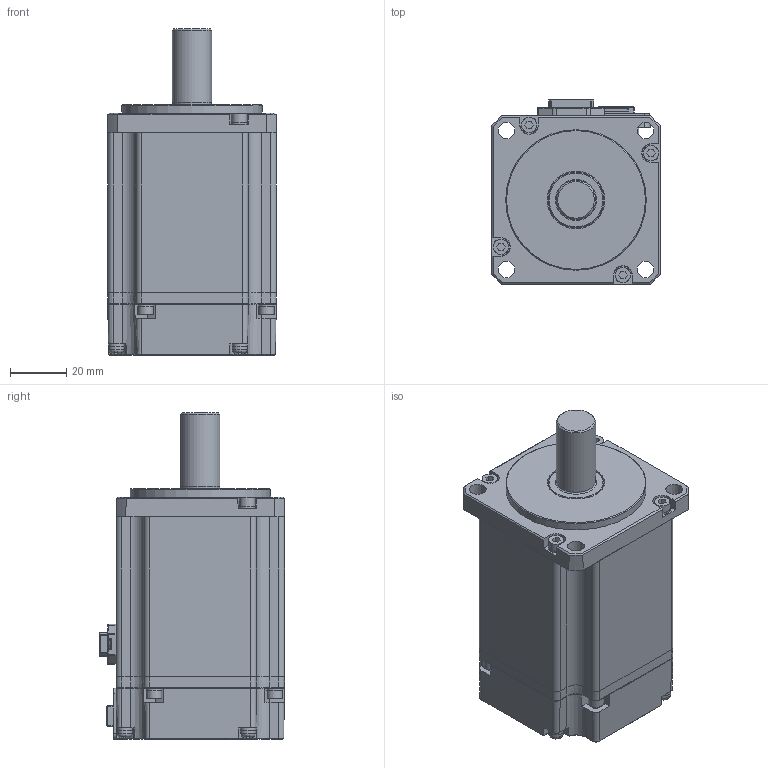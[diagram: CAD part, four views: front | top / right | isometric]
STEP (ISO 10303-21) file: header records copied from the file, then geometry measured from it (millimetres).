
FILE_DESCRIPTION (( 'STEP AP214' ), '1' );
FILE_NAME ('EM06GA003G03_Out Line(APM-EB04AM3N).STEP', '2022-11-10T03:06:32', ( '' ), ( '' ), 'SwSTEP 2.0', 'SolidWorks 2021', '' );
FILE_SCHEMA (( 'AUTOMOTIVE_DESIGN' ));
Length unit declared in the file: millimetre
Products named in the file (1): EM06GA003G03_Out Line(APM-EB04AM3N)
Bounding box: 60 x 65.9 x 116.2 mm (x, y, z)
Volume: 287405.3 mm3; surface area: 57557.6 mm2
Topology: 33 solids, 33 shells, 1405 faces, 3509 edges, 2235 vertices
Faces by surface type: plane 1022, cylinder 213, cone 107, torus 31, bspline 18, sphere 14
Full cylindrical faces by diameter (mm): 1.6 x10, 2 x2, 2.1 x2, 2.5 x12, 3 x16, 3.1 x8, 3.5 x4, 5.4 x8, 5.5 x8, 5.6 x8, 14 x1, 19.8 x1, 20.5 x1, 50 x1
Entity records: 56992 total; most frequent: CARTESIAN_POINT 8560, ORIENTED_EDGE 6668, DIRECTION 6423, EDGE_CURVE 3334, VECTOR 2483, LINE 2483, VERTEX_POINT 2192, AXIS2_PLACEMENT_3D 1970
